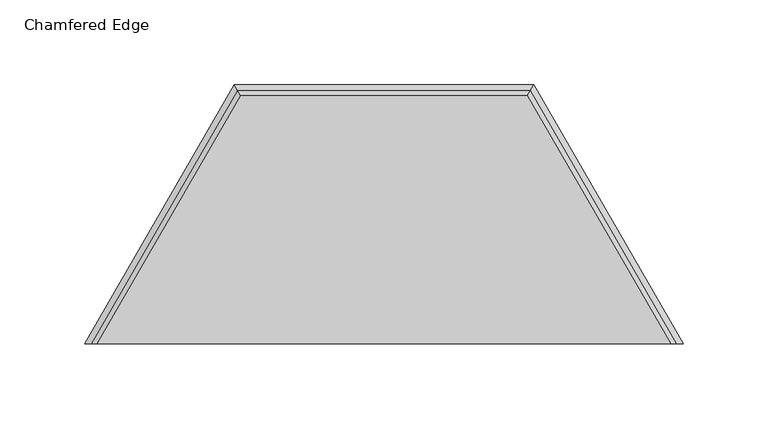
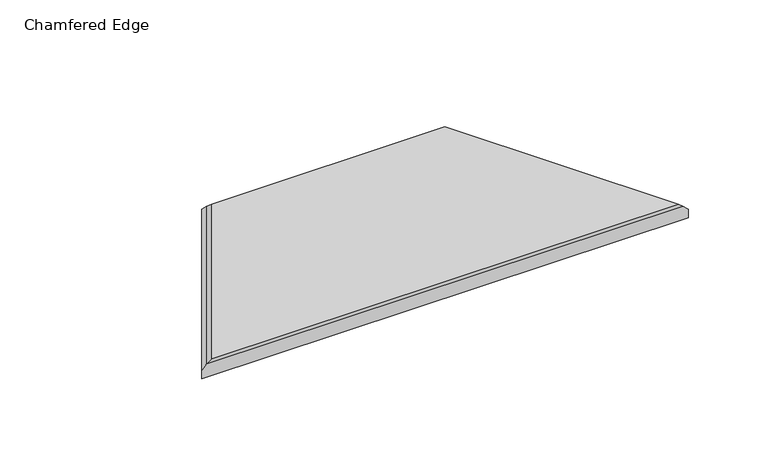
"""IFC4 building model written with IfcOpenShell, lengths in millimetres: proxy geometry, FilzFelt_Hex_Block : Chamfered Edge."""

from ifc_helpers import new_model, si_unit, origin, place, context, project, spatial, faceted_brep, source, transform, mapped, element, save


def chamfered_edge_8c6738dd(model_context):
    return source(origin(), model_context, "Body", "Brep", [
        faceted_brep([(172.081052, 0.0, 10.0210937), (-172.081052, 0.0, 10.0210937), (-86.040526, 149.0265625, 10.0210937), (86.040526, 149.0265625, 10.0210937), (-168.6440136, 0.0, 12.9976563), (168.6440136, 0.0, 12.9976563), (84.3220068, 146.05, 12.9976563), (-84.3220068, 146.05, 12.9976563)], [[[0, 1, 2, 3]], [[4, 5, 6, 7]], [[3, 6, 5, 0]], [[6, 3, 2, 7]], [[7, 2, 1, 4]], [[1, 0, 5, 4]]]),
        faceted_brep([(-175.976362, 0.0, 0.0), (-87.988181, 152.4, 0.0), (87.988181, 152.4, 0.0), (175.976362, 0.0, 0.0), (-172.081052, 0.0, 10.0210937), (172.081052, 0.0, 10.0210937), (86.040526, 149.0265625, 10.0210937), (-86.040526, 149.0265625, 10.0210937), (-175.976362, 0.0, 6.6476563), (-87.988181, 152.4, 6.6476563), (87.988181, 152.4, 6.6476563), (175.976362, 0.0, 6.6476563)], [[[0, 1, 2, 3]], [[4, 5, 6, 7]], [[1, 0, 8, 9]], [[2, 1, 9, 10]], [[3, 2, 10, 11]], [[10, 6, 5, 11]], [[6, 10, 9, 7]], [[7, 9, 8, 4]], [[0, 3, 11, 5, 4, 8]]]),
    ])


if __name__ == "__main__":
    model = new_model("IFC4")
    model_context = context("Model", 3, world=origin())
    ifc_project = project(units=[si_unit("LENGTHUNIT", "METRE", prefix="MILLI")], contexts=[model_context])
    site = spatial("IfcSite", under=ifc_project)
    building = spatial("IfcBuilding", under=site)
    placement = place(None, origin())
    chamfered_edge_shape = chamfered_edge_8c6738dd(model_context)
    element("IfcBuildingElementProxy", 1, Name="FilzFelt_Hex_Block : Chamfered Edge", ObjectType="FilzFelt_Hex_Block : Chamfered Edge", at=placement, inside=building, context=model_context, shape_type="MappedRepresentation", body=[
        mapped(chamfered_edge_shape, transform((0.0, 0.0, 0.0), x_axis=(1.0, 0.0, 0.0), y_axis=(0.0, 1.0, 0.0), z_axis=(0.0, 0.0, 1.0))),
    ])
    save(model, "model.ifc")
